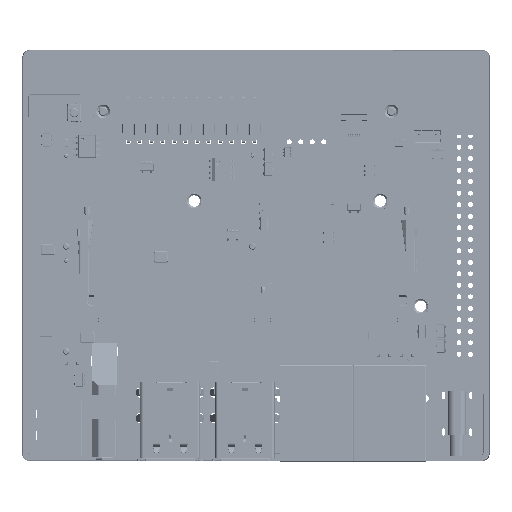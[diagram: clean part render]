
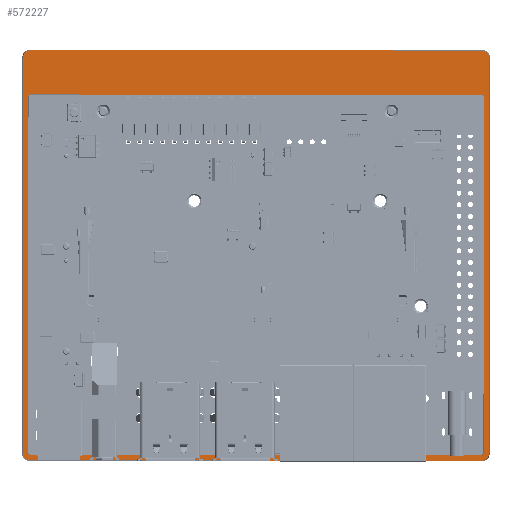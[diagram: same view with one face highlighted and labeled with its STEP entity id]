
A CAD part, top view. The second image highlights one B-rep face of the part: STEP entity #572227.
In plain terms, the highlighted planar face has unit normal (0, 0, 1).
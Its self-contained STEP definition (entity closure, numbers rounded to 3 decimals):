
#564098=DIRECTION('',(1.,0.,0.));
#564099=VECTOR('',#564098,99.5);
#564100=CARTESIAN_POINT('',(0.28,-0.23,0.));
#564101=LINE('',#564100,#564099);
#564105=DIRECTION('',(0.,1.,0.));
#564106=VECTOR('',#564105,78.5);
#564107=CARTESIAN_POINT('',(100.28,0.27,0.));
#564108=LINE('',#564107,#564106);
#564112=DIRECTION('',(-1.,0.,0.));
#564113=VECTOR('',#564112,99.5);
#564114=CARTESIAN_POINT('',(99.78,79.27,0.));
#564115=LINE('',#564114,#564113);
#564119=DIRECTION('',(0.,-1.,0.));
#564120=VECTOR('',#564119,78.5);
#564121=CARTESIAN_POINT('',(-0.22,78.77,0.));
#564122=LINE('',#564121,#564120);
#564126=CARTESIAN_POINT('',(99.78,-1.48,0.));
#564127=CARTESIAN_POINT('',(100.072,-1.48,0.));
#564128=CARTESIAN_POINT('',(100.529,-1.353,0.));
#564129=CARTESIAN_POINT('',(101.043,-0.993,0.));
#564130=CARTESIAN_POINT('',(101.403,-0.479,0.));
#564131=CARTESIAN_POINT('',(101.53,-0.022,0.));
#564132=CARTESIAN_POINT('',(101.53,0.27,0.));
#564137=DIRECTION('',(-1.,0.,0.));
#564138=VECTOR('',#564137,99.501);
#564139=CARTESIAN_POINT('',(99.78,-1.48,0.));
#564140=LINE('',#564139,#564138);
#564144=CARTESIAN_POINT('',(-1.47,0.27,0.));
#564145=CARTESIAN_POINT('',(-1.47,-0.022,0.));
#564146=CARTESIAN_POINT('',(-1.343,-0.479,0.));
#564147=CARTESIAN_POINT('',(-0.983,-0.993,0.));
#564148=CARTESIAN_POINT('',(-0.469,-1.353,0.));
#564149=CARTESIAN_POINT('',(-0.012,-1.48,0.));
#564150=CARTESIAN_POINT('',(0.28,-1.48,0.));
#564155=DIRECTION('',(0.,1.,0.));
#564156=VECTOR('',#564155,87.001);
#564157=CARTESIAN_POINT('',(-1.47,0.27,0.));
#564158=LINE('',#564157,#564156);
#564162=CARTESIAN_POINT('',(0.28,89.02,0.));
#564163=CARTESIAN_POINT('',(-0.012,89.02,0.));
#564164=CARTESIAN_POINT('',(-0.469,88.893,0.));
#564165=CARTESIAN_POINT('',(-0.983,88.533,0.));
#564166=CARTESIAN_POINT('',(-1.343,88.019,0.));
#564167=CARTESIAN_POINT('',(-1.47,87.562,0.));
#564168=CARTESIAN_POINT('',(-1.47,87.27,0.));
#564173=DIRECTION('',(1.,0.,0.));
#564174=VECTOR('',#564173,99.501);
#564175=CARTESIAN_POINT('',(0.28,89.02,0.));
#564176=LINE('',#564175,#564174);
#564180=CARTESIAN_POINT('',(101.53,87.27,0.));
#564181=CARTESIAN_POINT('',(101.53,87.562,0.));
#564182=CARTESIAN_POINT('',(101.403,88.019,0.));
#564183=CARTESIAN_POINT('',(101.043,88.533,0.));
#564184=CARTESIAN_POINT('',(100.529,88.893,0.));
#564185=CARTESIAN_POINT('',(100.072,89.02,0.));
#564186=CARTESIAN_POINT('',(99.78,89.02,0.));
#564191=DIRECTION('',(0.,-1.,0.));
#564192=VECTOR('',#564191,87.001);
#564193=CARTESIAN_POINT('',(101.53,87.27,0.));
#564194=LINE('',#564193,#564192);
#564219=CARTESIAN_POINT('',(0.28,-0.23,0.));
#564220=CARTESIAN_POINT('',(0.113,-0.23,0.));
#564221=CARTESIAN_POINT('',(-0.094,-0.104,0.));
#564222=CARTESIAN_POINT('',(-0.22,0.103,0.));
#564223=CARTESIAN_POINT('',(-0.22,0.27,0.));
#564249=CARTESIAN_POINT('',(-0.22,78.77,0.));
#564250=CARTESIAN_POINT('',(-0.22,78.937,0.));
#564251=CARTESIAN_POINT('',(-0.094,79.144,0.));
#564252=CARTESIAN_POINT('',(0.113,79.27,0.));
#564253=CARTESIAN_POINT('',(0.28,79.27,0.));
#564279=CARTESIAN_POINT('',(99.78,79.27,0.));
#564280=CARTESIAN_POINT('',(99.947,79.27,0.));
#564281=CARTESIAN_POINT('',(100.154,79.144,0.));
#564282=CARTESIAN_POINT('',(100.28,78.937,0.));
#564283=CARTESIAN_POINT('',(100.28,78.77,0.));
#564309=CARTESIAN_POINT('',(100.28,0.27,0.));
#564310=CARTESIAN_POINT('',(100.28,0.103,0.));
#564311=CARTESIAN_POINT('',(100.154,-0.104,0.));
#564312=CARTESIAN_POINT('',(99.947,-0.23,0.));
#564313=CARTESIAN_POINT('',(99.78,-0.23,0.));
#571488=CARTESIAN_POINT('',(-0.22,0.27,0.));
#571490=VERTEX_POINT('',#571488);
#571492=CARTESIAN_POINT('',(0.28,-0.23,0.));
#571493=VERTEX_POINT('',#571492);
#571495=CARTESIAN_POINT('',(99.78,-0.23,0.));
#571497=VERTEX_POINT('',#571495);
#571499=CARTESIAN_POINT('',(100.28,0.27,0.));
#571500=VERTEX_POINT('',#571499);
#571502=CARTESIAN_POINT('',(100.28,78.77,0.));
#571504=VERTEX_POINT('',#571502);
#571506=CARTESIAN_POINT('',(99.78,79.27,0.));
#571507=VERTEX_POINT('',#571506);
#571509=CARTESIAN_POINT('',(0.28,79.27,0.));
#571511=VERTEX_POINT('',#571509);
#571513=CARTESIAN_POINT('',(-0.22,78.77,0.));
#571514=VERTEX_POINT('',#571513);
#571517=CARTESIAN_POINT('',(99.78,-1.48,0.));
#571518=VERTEX_POINT('',#571517);
#571519=VERTEX_POINT('',#564132);
#571522=CARTESIAN_POINT('',(-1.47,0.27,0.));
#571523=VERTEX_POINT('',#571522);
#571524=VERTEX_POINT('',#564150);
#571527=CARTESIAN_POINT('',(0.28,89.02,0.));
#571528=VERTEX_POINT('',#571527);
#571529=VERTEX_POINT('',#564168);
#571532=CARTESIAN_POINT('',(101.53,87.27,0.));
#571533=VERTEX_POINT('',#571532);
#571534=VERTEX_POINT('',#564186);
#572186=CARTESIAN_POINT('',(0.,0.,0.));
#572187=DIRECTION('',(0.,0.,1.));
#572188=DIRECTION('',(1.,0.,0.));
#572189=AXIS2_PLACEMENT_3D('',#572186,#572187,#572188);
#572190=PLANE('',#572189);
#572192=ORIENTED_EDGE('',*,*,#572191,.F.);
#572194=ORIENTED_EDGE('',*,*,#572193,.T.);
#572196=ORIENTED_EDGE('',*,*,#572195,.F.);
#572198=ORIENTED_EDGE('',*,*,#572197,.T.);
#572200=ORIENTED_EDGE('',*,*,#572199,.F.);
#572202=ORIENTED_EDGE('',*,*,#572201,.T.);
#572204=ORIENTED_EDGE('',*,*,#572203,.F.);
#572206=ORIENTED_EDGE('',*,*,#572205,.T.);
#572207=EDGE_LOOP('',(#572192,#572194,#572196,#572198,#572200,#572202,#572204,
#572206));
#572208=FACE_OUTER_BOUND('',#572207,.F.);
#572210=ORIENTED_EDGE('',*,*,#572209,.T.);
#572212=ORIENTED_EDGE('',*,*,#572211,.F.);
#572214=ORIENTED_EDGE('',*,*,#572213,.T.);
#572216=ORIENTED_EDGE('',*,*,#572215,.F.);
#572218=ORIENTED_EDGE('',*,*,#572217,.T.);
#572220=ORIENTED_EDGE('',*,*,#572219,.F.);
#572222=ORIENTED_EDGE('',*,*,#572221,.T.);
#572224=ORIENTED_EDGE('',*,*,#572223,.F.);
#572225=EDGE_LOOP('',(#572210,#572212,#572214,#572216,#572218,#572220,#572222,
#572224));
#572226=FACE_BOUND('',#572225,.F.);
#572227=ADVANCED_FACE('',(#572208,#572226),#572190,.T.);
#564133=B_SPLINE_CURVE_WITH_KNOTS('',3,(#564126,#564127,#564128,#564129,#564130,
#564131,#564132),.UNSPECIFIED.,.F.,.F.,(4,1,1,1,4),(0.,0.25,0.5,0.75,
1.),.UNSPECIFIED.);
#564151=B_SPLINE_CURVE_WITH_KNOTS('',3,(#564144,#564145,#564146,#564147,#564148,
#564149,#564150),.UNSPECIFIED.,.F.,.F.,(4,1,1,1,4),(0.,0.25,0.5,0.75,
1.),.UNSPECIFIED.);
#564169=B_SPLINE_CURVE_WITH_KNOTS('',3,(#564162,#564163,#564164,#564165,#564166,
#564167,#564168),.UNSPECIFIED.,.F.,.F.,(4,1,1,1,4),(0.,0.25,0.5,0.75,
1.),.UNSPECIFIED.);
#564187=B_SPLINE_CURVE_WITH_KNOTS('',3,(#564180,#564181,#564182,#564183,#564184,
#564185,#564186),.UNSPECIFIED.,.F.,.F.,(4,1,1,1,4),(0.,0.25,0.5,0.75,
1.),.UNSPECIFIED.);
#564224=B_SPLINE_CURVE_WITH_KNOTS('',3,(#564219,#564220,#564221,#564222,
#564223),.UNSPECIFIED.,.F.,.F.,(4,1,4),(0.,0.5,1.),.UNSPECIFIED.);
#564254=B_SPLINE_CURVE_WITH_KNOTS('',3,(#564249,#564250,#564251,#564252,
#564253),.UNSPECIFIED.,.F.,.F.,(4,1,4),(0.,0.5,1.),.UNSPECIFIED.);
#564284=B_SPLINE_CURVE_WITH_KNOTS('',3,(#564279,#564280,#564281,#564282,
#564283),.UNSPECIFIED.,.F.,.F.,(4,1,4),(0.,0.5,1.),.UNSPECIFIED.);
#564314=B_SPLINE_CURVE_WITH_KNOTS('',3,(#564309,#564310,#564311,#564312,
#564313),.UNSPECIFIED.,.F.,.F.,(4,1,4),(0.,0.5,1.),.UNSPECIFIED.);
#572191=EDGE_CURVE('',#571518,#571519,#564133,.T.);
#572193=EDGE_CURVE('',#571518,#571524,#564140,.T.);
#572195=EDGE_CURVE('',#571523,#571524,#564151,.T.);
#572197=EDGE_CURVE('',#571523,#571529,#564158,.T.);
#572199=EDGE_CURVE('',#571528,#571529,#564169,.T.);
#572201=EDGE_CURVE('',#571528,#571534,#564176,.T.);
#572203=EDGE_CURVE('',#571533,#571534,#564187,.T.);
#572205=EDGE_CURVE('',#571533,#571519,#564194,.T.);
#572209=EDGE_CURVE('',#571493,#571497,#564101,.T.);
#572211=EDGE_CURVE('',#571500,#571497,#564314,.T.);
#572213=EDGE_CURVE('',#571500,#571504,#564108,.T.);
#572215=EDGE_CURVE('',#571507,#571504,#564284,.T.);
#572217=EDGE_CURVE('',#571507,#571511,#564115,.T.);
#572219=EDGE_CURVE('',#571514,#571511,#564254,.T.);
#572221=EDGE_CURVE('',#571514,#571490,#564122,.T.);
#572223=EDGE_CURVE('',#571493,#571490,#564224,.T.);
